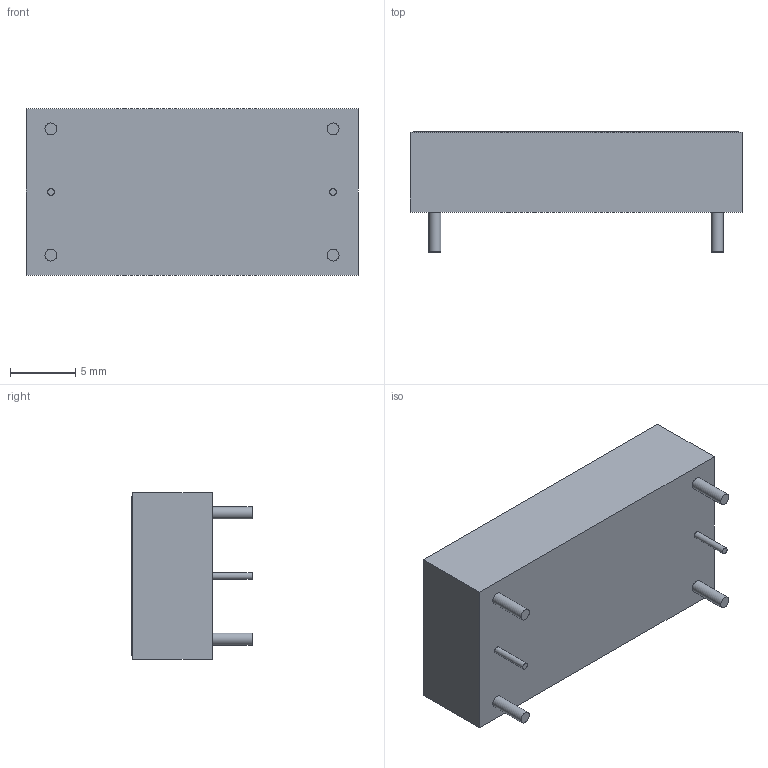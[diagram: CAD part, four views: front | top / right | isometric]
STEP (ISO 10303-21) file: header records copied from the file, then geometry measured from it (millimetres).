
FILE_DESCRIPTION (( 'STEP AP214' ), '1' );
FILE_NAME ('BPF-45M-15M-PP.STEP', '2026-08-17T15:22:10', ( '' ), ( '' ), 'SwSTEP 2.0', 'SolidWorks 2025', '' );
FILE_SCHEMA (( 'AUTOMOTIVE_DESIGN' ));
Length unit declared in the file: inch
Products named in the file (1): BPF-45M-15M-PP
Bounding box: 25.4 x 9.19 x 12.7 mm (x, y, z)
Volume: 1991.1 mm3; surface area: 1765.1 mm2
Topology: 2 solids, 2 shells, 119 faces, 819 edges, 805 vertices
Faces by surface type: plane 113, cylinder 6
Full cylindrical faces by diameter (mm): 0.508 x2, 0.914 x4
Entity records: 11222 total; most frequent: CARTESIAN_POINT 3762, ORIENTED_EDGE 1626, DIRECTION 1010, EDGE_CURVE 813, VERTEX_POINT 805, LINE 536, VECTOR 536, AXIS2_PLACEMENT_3D 237
